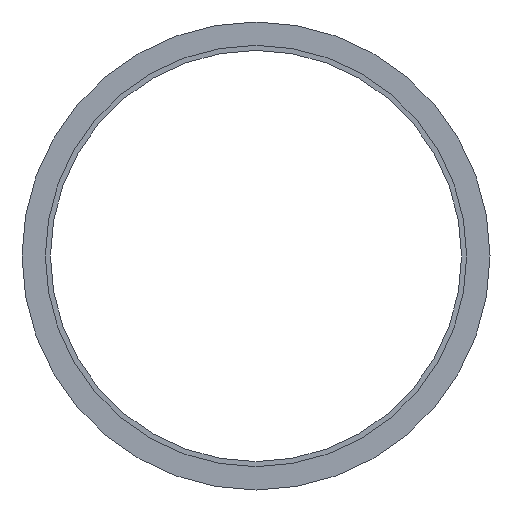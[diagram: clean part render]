
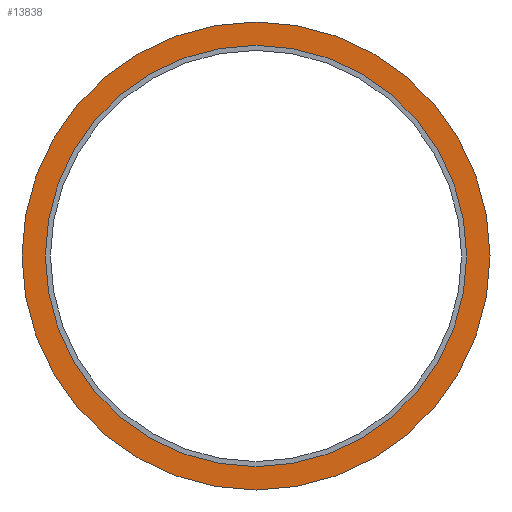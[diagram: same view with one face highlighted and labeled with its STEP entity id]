
A CAD part, left-side view. The second image highlights one B-rep face of the part: STEP entity #13838.
In plain terms, the highlighted planar face has unit normal (-1, 0, 0).
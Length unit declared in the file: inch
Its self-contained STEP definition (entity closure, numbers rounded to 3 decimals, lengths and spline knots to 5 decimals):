
#13796=CARTESIAN_POINT('',(0.125,2.48,0.0));
#13797=VERTEX_POINT('',#13796);
#13798=CARTESIAN_POINT('',(0.125,0.0,0.0));
#13799=DIRECTION('',(1.0,0.0,0.0));
#13800=DIRECTION('',(0.0,1.0,0.0));
#13801=AXIS2_PLACEMENT_3D('',#13798,#13799,#13800);
#13802=CIRCLE('',#13801,2.48);
#13803=EDGE_CURVE('',#13797,#13797,#13802,.T.);
#13819=CARTESIAN_POINT('',(0.125,2.6175,0.0));
#13820=DIRECTION('',(-1.0,0.0,0.0));
#13821=DIRECTION('',(0.0,0.0,1.0));
#13822=AXIS2_PLACEMENT_3D('',#13819,#13820,#13821);
#13823=PLANE('',#13822);
#13824=CARTESIAN_POINT('',(0.125,2.755,0.0));
#13825=VERTEX_POINT('',#13824);
#13826=CARTESIAN_POINT('',(0.125,0.0,0.0));
#13827=DIRECTION('',(1.0,0.0,0.0));
#13828=DIRECTION('',(0.0,1.0,0.0));
#13829=AXIS2_PLACEMENT_3D('',#13826,#13827,#13828);
#13830=CIRCLE('',#13829,2.755);
#13831=EDGE_CURVE('',#13825,#13825,#13830,.T.);
#13832=ORIENTED_EDGE('',*,*,#13831,.F.);
#13833=EDGE_LOOP('',(#13832));
#13834=FACE_OUTER_BOUND('',#13833,.T.);
#13835=ORIENTED_EDGE('',*,*,#13803,.T.);
#13836=EDGE_LOOP('',(#13835));
#13837=FACE_BOUND('',#13836,.T.);
#13838=ADVANCED_FACE('',(#13834,#13837),#13823,.T.);
